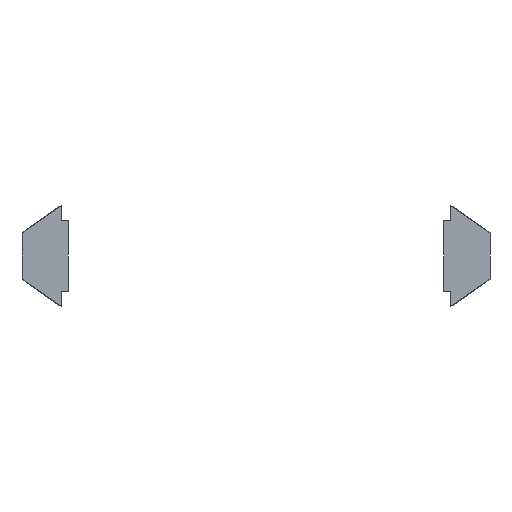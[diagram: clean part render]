
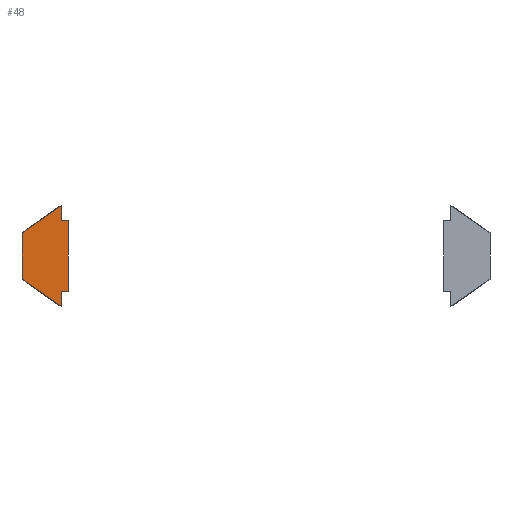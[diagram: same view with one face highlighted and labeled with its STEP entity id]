
A CAD part, front view. The second image highlights one B-rep face of the part: STEP entity #48.
In plain terms, the highlighted planar face has unit normal (0, -1, 0) as drawn and (0, 1, 0) by its records, which use the part's own axes.
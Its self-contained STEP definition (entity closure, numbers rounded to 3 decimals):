
#48=ADVANCED_FACE('',(#74),#972,.T.);
#74=FACE_OUTER_BOUND('',#101,.T.);
#101=EDGE_LOOP('',(#166,#167,#168,#169,#170,#171,#172,#173));
#166=ORIENTED_EDGE('',*,*,#641,.F.);
#167=ORIENTED_EDGE('',*,*,#648,.F.);
#168=ORIENTED_EDGE('',*,*,#653,.F.);
#169=ORIENTED_EDGE('',*,*,#656,.F.);
#170=ORIENTED_EDGE('',*,*,#659,.F.);
#171=ORIENTED_EDGE('',*,*,#662,.F.);
#172=ORIENTED_EDGE('',*,*,#667,.F.);
#173=ORIENTED_EDGE('',*,*,#669,.F.);
#281=PCURVE('',#963,#425);
#288=PCURVE('',#964,#432);
#294=PCURVE('',#965,#438);
#298=PCURVE('',#966,#442);
#302=PCURVE('',#967,#446);
#306=PCURVE('',#968,#450);
#312=PCURVE('',#969,#456);
#316=PCURVE('',#970,#460);
#326=PCURVE('',#972,#470);
#327=PCURVE('',#972,#471);
#328=PCURVE('',#972,#472);
#329=PCURVE('',#972,#473);
#330=PCURVE('',#972,#474);
#331=PCURVE('',#972,#475);
#332=PCURVE('',#972,#476);
#333=PCURVE('',#972,#477);
#425=DEFINITIONAL_REPRESENTATION('',(#716),#1958);
#432=DEFINITIONAL_REPRESENTATION('',(#728),#1958);
#438=DEFINITIONAL_REPRESENTATION('',(#739),#1958);
#442=DEFINITIONAL_REPRESENTATION('',(#746),#1958);
#446=DEFINITIONAL_REPRESENTATION('',(#753),#1958);
#450=DEFINITIONAL_REPRESENTATION('',(#760),#1958);
#456=DEFINITIONAL_REPRESENTATION('',(#769),#1958);
#460=DEFINITIONAL_REPRESENTATION('',(#775),#1958);
#470=DEFINITIONAL_REPRESENTATION('',(#786),#1958);
#471=DEFINITIONAL_REPRESENTATION('',(#787),#1958);
#472=DEFINITIONAL_REPRESENTATION('',(#788),#1958);
#473=DEFINITIONAL_REPRESENTATION('',(#789),#1958);
#474=DEFINITIONAL_REPRESENTATION('',(#790),#1958);
#475=DEFINITIONAL_REPRESENTATION('',(#791),#1958);
#476=DEFINITIONAL_REPRESENTATION('',(#792),#1958);
#477=DEFINITIONAL_REPRESENTATION('',(#793),#1958);
#569=SURFACE_CURVE('',#715,(#281,#326),.PCURVE_S1.);
#576=SURFACE_CURVE('',#727,(#288,#327),.PCURVE_S1.);
#581=SURFACE_CURVE('',#738,(#294,#328),.PCURVE_S1.);
#584=SURFACE_CURVE('',#745,(#298,#329),.PCURVE_S1.);
#587=SURFACE_CURVE('',#752,(#302,#330),.PCURVE_S1.);
#590=SURFACE_CURVE('',#759,(#306,#331),.PCURVE_S1.);
#595=SURFACE_CURVE('',#768,(#312,#332),.PCURVE_S1.);
#597=SURFACE_CURVE('',#774,(#316,#333),.PCURVE_S1.);
#641=EDGE_CURVE('',#913,#914,#569,.T.);
#648=EDGE_CURVE('',#916,#913,#576,.T.);
#653=EDGE_CURVE('',#918,#916,#581,.T.);
#656=EDGE_CURVE('',#920,#918,#584,.T.);
#659=EDGE_CURVE('',#922,#920,#587,.T.);
#662=EDGE_CURVE('',#924,#922,#590,.T.);
#667=EDGE_CURVE('',#926,#924,#595,.T.);
#669=EDGE_CURVE('',#914,#926,#597,.T.);
#715=B_SPLINE_CURVE_WITH_KNOTS('',1,(#1154,#1155),.UNSPECIFIED.,.F.,.F.,
(2,2),(0.,3.906),.UNSPECIFIED.);
#716=B_SPLINE_CURVE_WITH_KNOTS('',1,(#1156,#1157),.UNSPECIFIED.,.F.,.F.,
(2,2),(0.,3.906),.UNSPECIFIED.);
#727=B_SPLINE_CURVE_WITH_KNOTS('',1,(#1194,#1195),.UNSPECIFIED.,.F.,.F.,
(2,2),(-3.819,0.),.UNSPECIFIED.);
#728=B_SPLINE_CURVE_WITH_KNOTS('',1,(#1196,#1197),.UNSPECIFIED.,.F.,.F.,
(2,2),(-3.819,0.),.UNSPECIFIED.);
#738=B_SPLINE_CURVE_WITH_KNOTS('',1,(#1246,#1247),.UNSPECIFIED.,.F.,.F.,
(2,2),(-7.725,-3.819),.UNSPECIFIED.);
#739=B_SPLINE_CURVE_WITH_KNOTS('',1,(#1248,#1249),.UNSPECIFIED.,.F.,.F.,
(2,2),(-7.725,-3.819),.UNSPECIFIED.);
#745=B_SPLINE_CURVE_WITH_KNOTS('',1,(#1260,#1261),.UNSPECIFIED.,.F.,.F.,
(2,2),(-8.975,-7.725),.UNSPECIFIED.);
#746=B_SPLINE_CURVE_WITH_KNOTS('',1,(#1262,#1263),.UNSPECIFIED.,.F.,.F.,
(2,2),(-8.975,-7.725),.UNSPECIFIED.);
#752=B_SPLINE_CURVE_WITH_KNOTS('',1,(#1274,#1275),.UNSPECIFIED.,.F.,.F.,
(2,2),(-9.575,-8.975),.UNSPECIFIED.);
#753=B_SPLINE_CURVE_WITH_KNOTS('',1,(#1276,#1277),.UNSPECIFIED.,.F.,.F.,
(2,2),(-9.575,-8.975),.UNSPECIFIED.);
#759=B_SPLINE_CURVE_WITH_KNOTS('',1,(#1288,#1289),.UNSPECIFIED.,.F.,.F.,
(2,2),(-15.375,-9.575),.UNSPECIFIED.);
#760=B_SPLINE_CURVE_WITH_KNOTS('',1,(#1290,#1291),.UNSPECIFIED.,.F.,.F.,
(2,2),(-15.375,-9.575),.UNSPECIFIED.);
#768=B_SPLINE_CURVE_WITH_KNOTS('',1,(#1362,#1363),.UNSPECIFIED.,.F.,.F.,
(2,2),(-15.975,-15.375),.UNSPECIFIED.);
#769=B_SPLINE_CURVE_WITH_KNOTS('',1,(#1364,#1365),.UNSPECIFIED.,.F.,.F.,
(2,2),(-15.975,-15.375),.UNSPECIFIED.);
#774=B_SPLINE_CURVE_WITH_KNOTS('',1,(#1374,#1375),.UNSPECIFIED.,.F.,.F.,
(2,2),(-17.225,-15.975),.UNSPECIFIED.);
#775=B_SPLINE_CURVE_WITH_KNOTS('',1,(#1376,#1377),.UNSPECIFIED.,.F.,.F.,
(2,2),(-17.225,-15.975),.UNSPECIFIED.);
#786=B_SPLINE_CURVE_WITH_KNOTS('',1,(#1398,#1399),.UNSPECIFIED.,.F.,.F.,
(2,2),(0.,3.906),.UNSPECIFIED.);
#787=B_SPLINE_CURVE_WITH_KNOTS('',1,(#1400,#1401),.UNSPECIFIED.,.F.,.F.,
(2,2),(-3.819,0.),.UNSPECIFIED.);
#788=B_SPLINE_CURVE_WITH_KNOTS('',1,(#1402,#1403),.UNSPECIFIED.,.F.,.F.,
(2,2),(-7.725,-3.819),.UNSPECIFIED.);
#789=B_SPLINE_CURVE_WITH_KNOTS('',1,(#1404,#1405),.UNSPECIFIED.,.F.,.F.,
(2,2),(-8.975,-7.725),.UNSPECIFIED.);
#790=B_SPLINE_CURVE_WITH_KNOTS('',1,(#1406,#1407),.UNSPECIFIED.,.F.,.F.,
(2,2),(-9.575,-8.975),.UNSPECIFIED.);
#791=B_SPLINE_CURVE_WITH_KNOTS('',1,(#1408,#1409),.UNSPECIFIED.,.F.,.F.,
(2,2),(-15.375,-9.575),.UNSPECIFIED.);
#792=B_SPLINE_CURVE_WITH_KNOTS('',1,(#1410,#1411),.UNSPECIFIED.,.F.,.F.,
(2,2),(-15.975,-15.375),.UNSPECIFIED.);
#793=B_SPLINE_CURVE_WITH_KNOTS('',1,(#1412,#1413),.UNSPECIFIED.,.F.,.F.,
(2,2),(-17.225,-15.975),.UNSPECIFIED.);
#913=VERTEX_POINT('',#1094);
#914=VERTEX_POINT('',#1095);
#916=VERTEX_POINT('',#1097);
#918=VERTEX_POINT('',#1099);
#920=VERTEX_POINT('',#1101);
#922=VERTEX_POINT('',#1103);
#924=VERTEX_POINT('',#1105);
#926=VERTEX_POINT('',#1107);
#963=PLANE('',#1003);
#964=PLANE('',#1004);
#965=PLANE('',#1005);
#966=PLANE('',#1006);
#967=PLANE('',#1007);
#968=PLANE('',#1008);
#969=PLANE('',#1009);
#970=PLANE('',#1010);
#972=PLANE('',#1012);
#1003=AXIS2_PLACEMENT_3D('',#1046,#1025,$);
#1004=AXIS2_PLACEMENT_3D('',#1047,#1026,$);
#1005=AXIS2_PLACEMENT_3D('',#1048,#1027,$);
#1006=AXIS2_PLACEMENT_3D('',#1049,#1028,$);
#1007=AXIS2_PLACEMENT_3D('',#1050,#1029,$);
#1008=AXIS2_PLACEMENT_3D('',#1051,#1030,$);
#1009=AXIS2_PLACEMENT_3D('',#1052,#1031,$);
#1010=AXIS2_PLACEMENT_3D('',#1053,#1032,$);
#1012=AXIS2_PLACEMENT_3D('',#1091,#1034,$);
#1025=DIRECTION('',(0.574,0.,0.819));
#1026=DIRECTION('',(1.,0.,0.));
#1027=DIRECTION('',(0.574,0.,-0.819));
#1028=DIRECTION('',(-1.,0.,0.));
#1029=DIRECTION('',(0.,0.,-1.));
#1030=DIRECTION('',(-1.,0.,0.));
#1031=DIRECTION('',(0.,0.,1.));
#1032=DIRECTION('',(-1.,0.,0.));
#1034=DIRECTION('',(0.,1.,0.));
#1046=CARTESIAN_POINT('',(780.,-190.,145.85));
#1047=CARTESIAN_POINT('',(776.8,-190.,148.091));
#1048=CARTESIAN_POINT('',(776.8,-190.,151.909));
#1049=CARTESIAN_POINT('',(780.,-190.,154.15));
#1050=CARTESIAN_POINT('',(780.,-190.,152.9));
#1051=CARTESIAN_POINT('',(780.6,-190.,152.9));
#1052=CARTESIAN_POINT('',(780.6,-190.,147.1));
#1053=CARTESIAN_POINT('',(780.,-190.,147.1));
#1091=CARTESIAN_POINT('',(776.325,-207.,155.188));
#1094=CARTESIAN_POINT('',(776.8,-207.,148.091));
#1095=CARTESIAN_POINT('',(780.,-207.,145.85));
#1097=CARTESIAN_POINT('',(776.8,-207.,151.909));
#1099=CARTESIAN_POINT('',(780.,-207.,154.15));
#1101=CARTESIAN_POINT('',(780.,-207.,152.9));
#1103=CARTESIAN_POINT('',(780.6,-207.,152.9));
#1105=CARTESIAN_POINT('',(780.6,-207.,147.1));
#1107=CARTESIAN_POINT('',(780.,-207.,147.1));
#1154=CARTESIAN_POINT('',(776.8,-207.,148.091));
#1155=CARTESIAN_POINT('',(780.,-207.,145.85));
#1156=CARTESIAN_POINT('',(0.,17.));
#1157=CARTESIAN_POINT('',(-3.906,17.));
#1194=CARTESIAN_POINT('',(776.8,-207.,151.909));
#1195=CARTESIAN_POINT('',(776.8,-207.,148.091));
#1196=CARTESIAN_POINT('',(3.819,17.));
#1197=CARTESIAN_POINT('',(0.,17.));
#1246=CARTESIAN_POINT('',(780.,-207.,154.15));
#1247=CARTESIAN_POINT('',(776.8,-207.,151.909));
#1248=CARTESIAN_POINT('',(7.725,17.));
#1249=CARTESIAN_POINT('',(3.819,17.));
#1260=CARTESIAN_POINT('',(780.,-207.,152.9));
#1261=CARTESIAN_POINT('',(780.,-207.,154.15));
#1262=CARTESIAN_POINT('',(8.975,17.));
#1263=CARTESIAN_POINT('',(7.725,17.));
#1274=CARTESIAN_POINT('',(780.6,-207.,152.9));
#1275=CARTESIAN_POINT('',(780.,-207.,152.9));
#1276=CARTESIAN_POINT('',(9.575,17.));
#1277=CARTESIAN_POINT('',(8.975,17.));
#1288=CARTESIAN_POINT('',(780.6,-207.,147.1));
#1289=CARTESIAN_POINT('',(780.6,-207.,152.9));
#1290=CARTESIAN_POINT('',(15.375,17.));
#1291=CARTESIAN_POINT('',(9.575,17.));
#1362=CARTESIAN_POINT('',(780.,-207.,147.1));
#1363=CARTESIAN_POINT('',(780.6,-207.,147.1));
#1364=CARTESIAN_POINT('',(15.975,17.));
#1365=CARTESIAN_POINT('',(15.375,17.));
#1374=CARTESIAN_POINT('',(780.,-207.,145.85));
#1375=CARTESIAN_POINT('',(780.,-207.,147.1));
#1376=CARTESIAN_POINT('',(17.225,17.));
#1377=CARTESIAN_POINT('',(15.975,17.));
#1398=CARTESIAN_POINT('',(-3.2,-2.241));
#1399=CARTESIAN_POINT('',(0.,0.));
#1400=CARTESIAN_POINT('',(-3.2,-6.059));
#1401=CARTESIAN_POINT('',(-3.2,-2.241));
#1402=CARTESIAN_POINT('',(0.,-8.3));
#1403=CARTESIAN_POINT('',(-3.2,-6.059));
#1404=CARTESIAN_POINT('',(0.,-7.05));
#1405=CARTESIAN_POINT('',(0.,-8.3));
#1406=CARTESIAN_POINT('',(0.6,-7.05));
#1407=CARTESIAN_POINT('',(0.,-7.05));
#1408=CARTESIAN_POINT('',(0.6,-1.25));
#1409=CARTESIAN_POINT('',(0.6,-7.05));
#1410=CARTESIAN_POINT('',(0.,-1.25));
#1411=CARTESIAN_POINT('',(0.6,-1.25));
#1412=CARTESIAN_POINT('',(0.,0.));
#1413=CARTESIAN_POINT('',(0.,-1.25));
#1958=(
GEOMETRIC_REPRESENTATION_CONTEXT(2)
PARAMETRIC_REPRESENTATION_CONTEXT()
REPRESENTATION_CONTEXT('pspace','')
);
